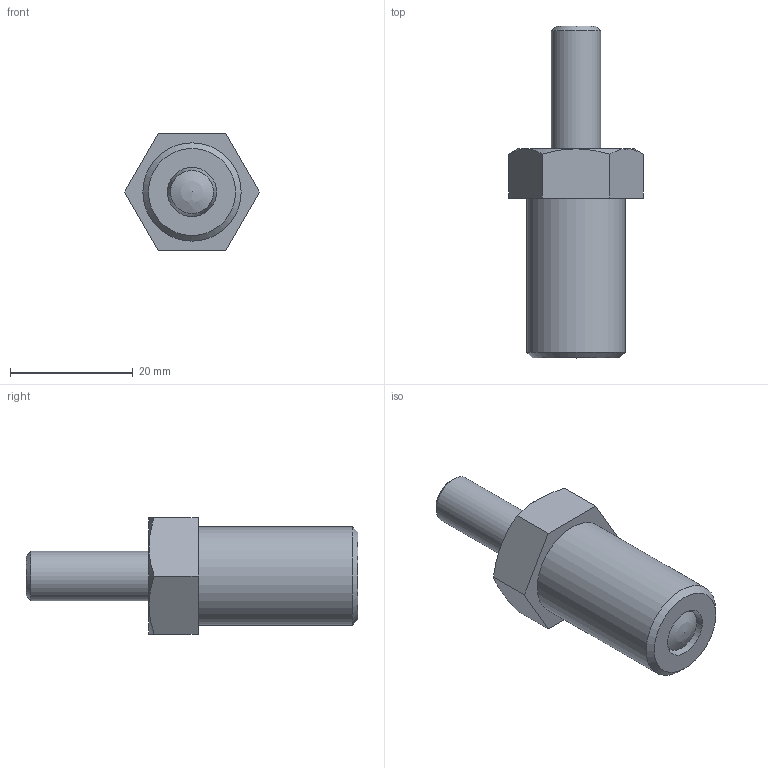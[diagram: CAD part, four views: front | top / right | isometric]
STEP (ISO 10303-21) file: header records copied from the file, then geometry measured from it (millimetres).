
FILE_DESCRIPTION( ( 'STEP AP203' ), '1' );
FILE_NAME( 'C:/Temp/Ganter_Step_05_03_2020/data/3_1/gn617_n/gn617n_g/Stainless Steel Indexing plunger GN 617-8-G-NI (activated).stp', '2020-03-12T08:43:12', ( 'License CC BY-ND 4.0' ), ( 'CADENAS' ), ' ', 'PARTsolutions', ' ' );
FILE_SCHEMA( ( 'CONFIG_CONTROL_DESIGN' ) );
Length unit declared in the file: millimetre
Products named in the file (3): Stainless Steel Indexing plunger GN 617-8-G-NI (activated); _STAINLESS STEEL - Indexing plunger GN 617-8-G-NI-2; _Indexing plunger GN 617-8-G-NI (1)-1
Assembly tree (2 placements, depth 2):
  Stainless Steel Indexing plunger GN 617-8-G-NI (activated)
    _STAINLESS STEEL - Indexing plunger GN 617-8-G-NI-2
    _Indexing plunger GN 617-8-G-NI (1)-1
Bounding box: 21.94 x 54 x 19 mm (x, y, z)
Volume: 7833.8 mm3; surface area: 5225 mm2
Topology: 2 solids, 2 shells, 31 faces, 60 edges, 37 vertices
Faces by surface type: plane 14, cone 9, cylinder 7, sphere 1
Full cylindrical faces by diameter (mm): 8 x4, 14 x2, 16 x1
Entity records: 872 total; most frequent: CARTESIAN_POINT 185, DIRECTION 126, ORIENTED_EDGE 94, AXIS2_PLACEMENT_3D 57, EDGE_LOOP 48, EDGE_CURVE 47, FACE_OUTER_BOUND 38, VERTEX_POINT 36
